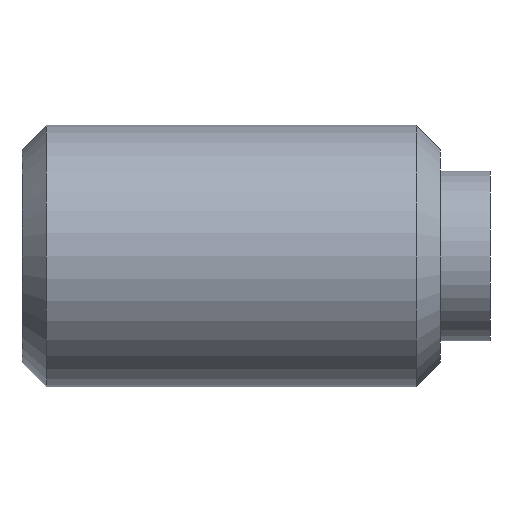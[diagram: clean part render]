
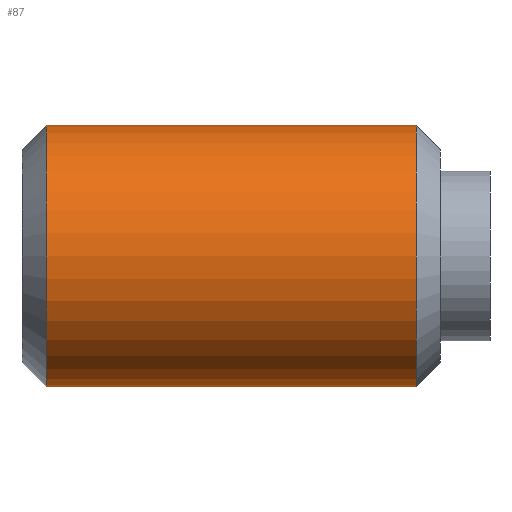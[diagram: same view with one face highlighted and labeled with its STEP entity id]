
A CAD part, left-side view. The second image highlights one B-rep face of the part: STEP entity #87.
In plain terms, the highlighted cylindrical face has radius 5 mm (diameter 10 mm), a full revolution.
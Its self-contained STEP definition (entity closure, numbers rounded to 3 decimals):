
#87 = ADVANCED_FACE( '', ( #118, #119 ), #120, .T. );
#118 = FACE_OUTER_BOUND( '', #152, .T. );
#119 = FACE_OUTER_BOUND( '', #153, .T. );
#120 = CYLINDRICAL_SURFACE( '', #154, 5. );
#152 = EDGE_LOOP( '', ( #238 ) );
#153 = EDGE_LOOP( '', ( #239 ) );
#154 = AXIS2_PLACEMENT_3D( '', #240, #241, #242 );
#238 = ORIENTED_EDGE( '', *, *, #270, .F. );
#239 = ORIENTED_EDGE( '', *, *, #271, .T. );
#240 = CARTESIAN_POINT( '', ( 0., 0., 0. ) );
#241 = DIRECTION( '', ( 0., 1., 0. ) );
#242 = DIRECTION( '', ( 0., 0., -1. ) );
#270 = EDGE_CURVE( '', #310, #310, #311, .T. );
#271 = EDGE_CURVE( '', #312, #312, #313, .T. );
#310 = VERTEX_POINT( '', #370 );
#311 = CIRCLE( '', #371, 5. );
#312 = VERTEX_POINT( '', #372 );
#313 = CIRCLE( '', #373, 5. );
#370 = CARTESIAN_POINT( '', ( 0., 2.82, -5. ) );
#371 = AXIS2_PLACEMENT_3D( '', #404, #405, #406 );
#372 = CARTESIAN_POINT( '', ( 0., 16.98, -5. ) );
#373 = AXIS2_PLACEMENT_3D( '', #407, #408, #409 );
#404 = CARTESIAN_POINT( '', ( 0., 2.82, 0. ) );
#405 = DIRECTION( '', ( 0., -1., 0. ) );
#406 = DIRECTION( '', ( 0., 0., -1. ) );
#407 = CARTESIAN_POINT( '', ( 0., 16.98, 0. ) );
#408 = DIRECTION( '', ( 0., -1., 0. ) );
#409 = DIRECTION( '', ( 0., 0., -1. ) );
